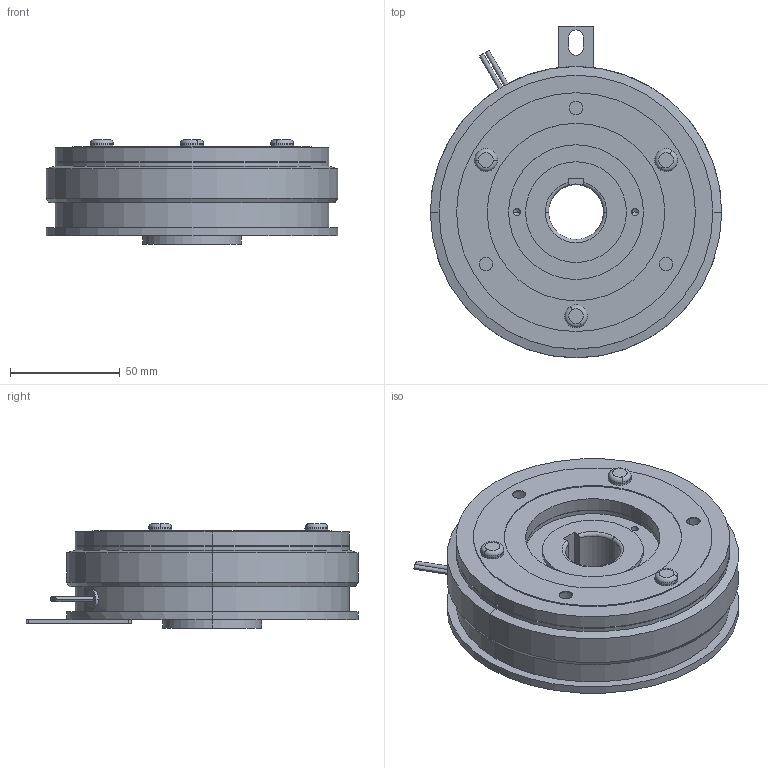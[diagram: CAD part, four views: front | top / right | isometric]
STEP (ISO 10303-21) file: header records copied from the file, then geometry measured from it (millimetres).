
FILE_DESCRIPTION (( 'STEP AP214' ), '1' );
FILE_NAME ('CS-12-33G 25JIS.STEP', '2018-02-09T06:45:42', ( 'MIKI' ), ( '' ), 'SwSTEP 2.0', 'SolidWorks 2012', '' );
FILE_SCHEMA (( 'AUTOMOTIVE_DESIGN' ));
Length unit declared in the file: millimetre
Products named in the file (1): CS-12-33G 25JIS
Bounding box: 133 x 151.5 x 47.8 mm (x, y, z)
Volume: 486838.2 mm3; surface area: 63771.8 mm2
Topology: 1 solids, 2 shells, 153 faces, 332 edges, 204 vertices
Faces by surface type: cylinder 75, plane 40, cone 26, torus 12
Entity records: 5987 total; most frequent: DIRECTION 814, CARTESIAN_POINT 796, ORIENTED_EDGE 648, AXIS2_PLACEMENT_3D 342, EDGE_CURVE 324, VERTEX_POINT 204, EDGE_LOOP 188, CIRCLE 188
